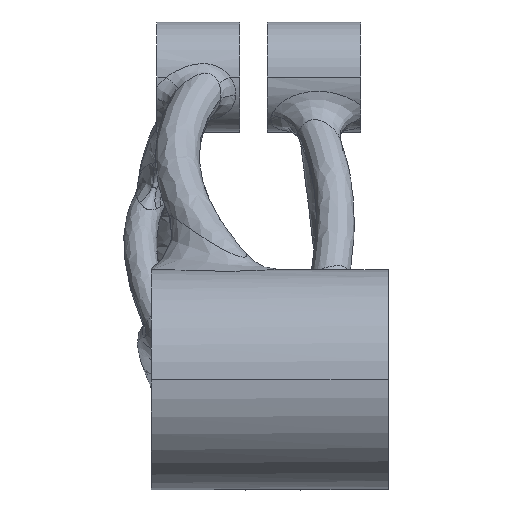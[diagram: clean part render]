
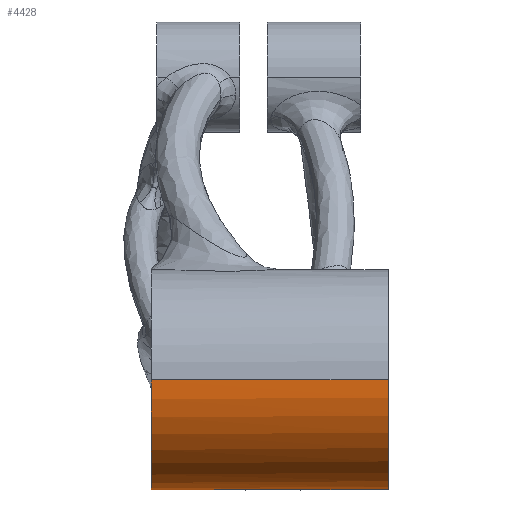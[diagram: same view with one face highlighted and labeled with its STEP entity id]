
A CAD part, front view. The second image highlights one B-rep face of the part: STEP entity #4428.
In plain terms, the highlighted cylindrical face has radius 20 mm (diameter 40 mm), a partial arc.
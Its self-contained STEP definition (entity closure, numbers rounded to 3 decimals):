
#3248=CARTESIAN_POINT('Vertex',(24.,-20.,0.)) ;
#3251=CARTESIAN_POINT('Axis2P3D Location',(24.,0.,0.)) ;
#3255=CARTESIAN_POINT('Vertex',(24.,17.795,-9.128)) ;
#4354=CARTESIAN_POINT('Axis2P3D Location',(4.5,0.,0.)) ;
#4360=CARTESIAN_POINT('Control Point',(-2.184,19.112,-5.894)) ;
#4361=CARTESIAN_POINT('Control Point',(-1.542,18.834,-6.795)) ;
#4362=CARTESIAN_POINT('Control Point',(-0.791,18.524,-7.612)) ;
#4363=CARTESIAN_POINT('Control Point',(0.047,18.195,-8.355)) ;
#4364=CARTESIAN_POINT('Control Point',(1.461,17.679,-9.389)) ;
#4365=CARTESIAN_POINT('Control Point',(3.049,17.181,-10.246)) ;
#4366=CARTESIAN_POINT('Control Point',(3.632,17.01,-10.527)) ;
#4367=CARTESIAN_POINT('Control Point',(5.205,16.581,-11.199)) ;
#4368=CARTESIAN_POINT('Control Point',(6.915,16.22,-11.709)) ;
#4369=CARTESIAN_POINT('Control Point',(8.014,16.036,-11.955)) ;
#4370=CARTESIAN_POINT('Control Point',(9.92,15.814,-12.246)) ;
#4371=CARTESIAN_POINT('Control Point',(11.854,15.752,-12.324)) ;
#4372=CARTESIAN_POINT('Control Point',(12.642,15.754,-12.321)) ;
#4373=CARTESIAN_POINT('Control Point',(14.433,15.82,-12.237)) ;
#4374=CARTESIAN_POINT('Control Point',(16.131,16.003,-11.998)) ;
#4375=CARTESIAN_POINT('Control Point',(17.055,16.136,-11.821)) ;
#4376=CARTESIAN_POINT('Control Point',(18.079,16.313,-11.575)) ;
#4377=CARTESIAN_POINT('Control Point',(19.061,16.513,-11.283)) ;
#4378=CARTESIAN_POINT('Control Point',(19.188,16.54,-11.244)) ;
#4379=CARTESIAN_POINT('Control Point',(19.696,16.647,-11.086)) ;
#4380=CARTESIAN_POINT('Control Point',(20.195,16.76,-10.914)) ;
#4381=CARTESIAN_POINT('Control Point',(20.564,16.848,-10.779)) ;
#4382=CARTESIAN_POINT('Control Point',(21.508,17.081,-10.41)) ;
#4383=CARTESIAN_POINT('Control Point',(22.414,17.327,-9.996)) ;
#4384=CARTESIAN_POINT('Control Point',(22.958,17.481,-9.724)) ;
#4385=CARTESIAN_POINT('Control Point',(23.486,17.638,-9.435)) ;
#4386=CARTESIAN_POINT('Control Point',(24.,17.795,-9.128)) ;
#4387=CARTESIAN_POINT('Vertex',(-2.184,19.112,-5.894)) ;
#4390=CARTESIAN_POINT('Line Origine',(4.5,-20.,0.)) ;
#4394=CARTESIAN_POINT('Vertex',(-19.,-20.,0.)) ;
#4397=CARTESIAN_POINT('Axis2P3D Location',(-19.,0.,0.)) ;
#4401=CARTESIAN_POINT('Vertex',(-19.,19.558,-4.182)) ;
#4405=CARTESIAN_POINT('Control Point',(-19.,19.558,-4.182)) ;
#4406=CARTESIAN_POINT('Control Point',(-17.889,19.294,-5.417)) ;
#4407=CARTESIAN_POINT('Control Point',(-16.553,18.976,-6.428)) ;
#4408=CARTESIAN_POINT('Control Point',(-15.106,18.664,-7.246)) ;
#4409=CARTESIAN_POINT('Control Point',(-12.86,18.265,-8.159)) ;
#4410=CARTESIAN_POINT('Control Point',(-10.322,18.084,-8.543)) ;
#4411=CARTESIAN_POINT('Control Point',(-9.573,18.055,-8.602)) ;
#4412=CARTESIAN_POINT('Control Point',(-8.314,18.058,-8.599)) ;
#4413=CARTESIAN_POINT('Control Point',(-7.056,18.145,-8.412)) ;
#4414=CARTESIAN_POINT('Control Point',(-6.566,18.193,-8.308)) ;
#4415=CARTESIAN_POINT('Control Point',(-5.257,18.359,-7.944)) ;
#4416=CARTESIAN_POINT('Control Point',(-4.059,18.599,-7.371)) ;
#4417=CARTESIAN_POINT('Control Point',(-3.367,18.769,-6.935)) ;
#4418=CARTESIAN_POINT('Control Point',(-2.741,18.943,-6.44)) ;
#4419=CARTESIAN_POINT('Control Point',(-2.184,19.112,-5.894)) ;
#3252=DIRECTION('Axis2P3D Direction',(1.,0.,0.)) ;
#4355=DIRECTION('Axis2P3D Direction',(1.,0.,0.)) ;
#4356=DIRECTION('Axis2P3D XDirection',(0.,1.,0.)) ;
#4391=DIRECTION('Vector Direction',(1.,0.,0.)) ;
#4398=DIRECTION('Axis2P3D Direction',(1.,0.,0.)) ;
#3253=AXIS2_PLACEMENT_3D('Circle Axis2P3D',#3251,#3252,$) ;
#4357=AXIS2_PLACEMENT_3D('Cylinder Axis2P3D',#4354,#4355,#4356) ;
#4399=AXIS2_PLACEMENT_3D('Circle Axis2P3D',#4397,#4398,$) ;
#4422=ORIENTED_EDGE('',*,*,#4389,.F.) ;
#4423=ORIENTED_EDGE('',*,*,#3257,.F.) ;
#4424=ORIENTED_EDGE('',*,*,#4396,.F.) ;
#4425=ORIENTED_EDGE('',*,*,#4403,.F.) ;
#4426=ORIENTED_EDGE('',*,*,#4420,.T.) ;
#4392=VECTOR('Line Direction',#4391,1.) ;
#4428=ADVANCED_FACE('Hauptk\X2\00F6\X0\rper',(#4427),#4358,.T.) ;
#4359=B_SPLINE_CURVE_WITH_KNOTS('',5,(#4360,#4361,#4362,#4363,#4364,#4365,#4366,#4367,#4368,#4369,#4370,#4371,#4372,#4373,#4374,#4375,#4376,#4377,#4378,#4379,#4380,#4381,#4382,#4383,#4384,#4385,#4386),.UNSPECIFIED.,.F.,.U.,(6,3,3,3,3,3,3,3,6),(7.561,14.35,18.07,24.028,28.163,33.58,34.399,36.848,40.777),.UNSPECIFIED.) ;
#4404=B_SPLINE_CURVE_WITH_KNOTS('',5,(#4405,#4406,#4407,#4408,#4409,#4410,#4411,#4412,#4413,#4414,#4415,#4416,#4417,#4418,#4419),.UNSPECIFIED.,.F.,.U.,(6,3,3,3,6),(5.883,16.362,20.538,23.252,27.936),.UNSPECIFIED.) ;
#3254=CIRCLE('generated circle',#3253,20.) ;
#4400=CIRCLE('generated circle',#4399,20.) ;
#4358=CYLINDRICAL_SURFACE('generated cylinder',#4357,20.) ;
#3257=EDGE_CURVE('',#3249,#3256,#3254,.T.) ;
#4389=EDGE_CURVE('',#3256,#4388,#4359,.F.) ;
#4396=EDGE_CURVE('',#4395,#3249,#4393,.T.) ;
#4403=EDGE_CURVE('',#4402,#4395,#4400,.F.) ;
#4420=EDGE_CURVE('',#4402,#4388,#4404,.T.) ;
#4421=EDGE_LOOP('',(#4422,#4423,#4424,#4425,#4426)) ;
#4427=FACE_OUTER_BOUND('',#4421,.T.) ;
#4393=LINE('Line',#4390,#4392) ;
#3249=VERTEX_POINT('',#3248) ;
#3256=VERTEX_POINT('',#3255) ;
#4388=VERTEX_POINT('',#4387) ;
#4395=VERTEX_POINT('',#4394) ;
#4402=VERTEX_POINT('',#4401) ;
